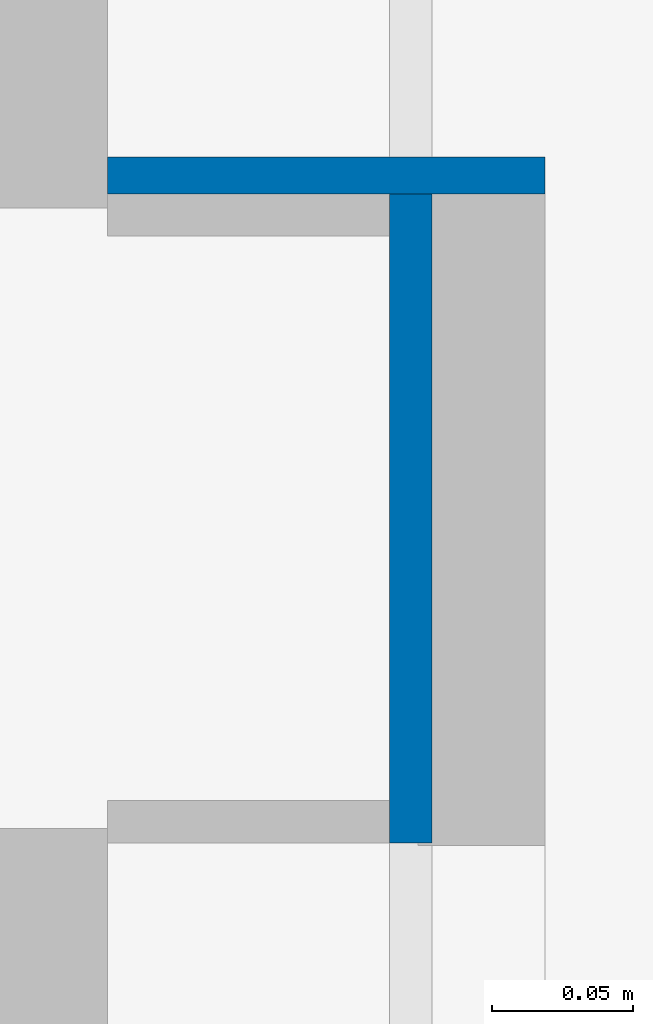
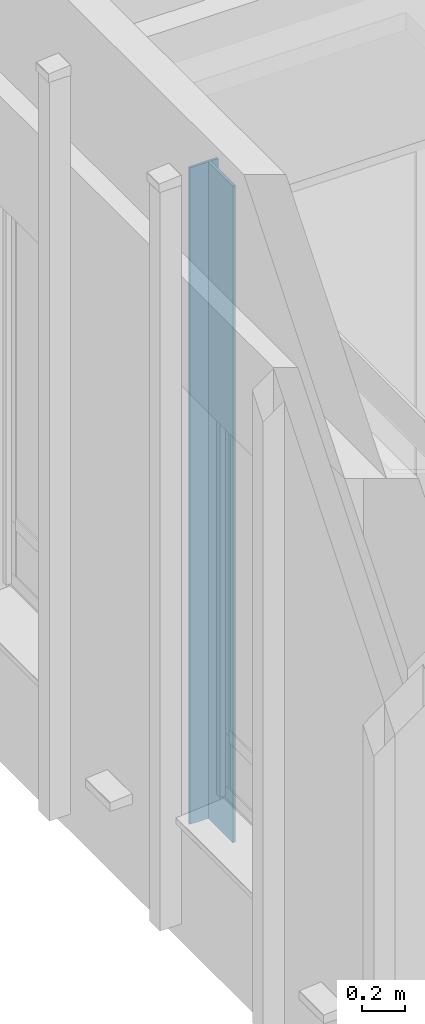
# One storey, part 48 of 118: 2 walls, 11 openings.
"""IFC2X3 building model written with IfcOpenShell, lengths in millimetres."""

from ifc_helpers import new_model, entity, si_unit, converted_unit, derived_unit, direction, frame, frame_2d, origin, place, context, subcontext, project, spatial, rectangle, extrude, faceted_brep, material, layer, layer_set, layer_usage, type_object, element, save


model = new_model("IFC2X3")

# Units and contexts
model_context = context("Model", 3, precision=0.01, world=origin(), true_north=direction((6.123031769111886e-17, 1.0)))
plan_context = context("Plan", 3, precision=0.01, world=origin(), true_north=direction((6.123031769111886e-17, 1.0)))
body_context = subcontext(model_context, "Body", "Model", "MODEL_VIEW")
ifc_project = project(units=[si_unit("LENGTHUNIT", "METRE", prefix="MILLI"), si_unit("AREAUNIT", "SQUARE_METRE"), si_unit("VOLUMEUNIT", "CUBIC_METRE"), converted_unit("PLANEANGLEUNIT", "DEGREE", entity("IfcRatioMeasure", 0.017453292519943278), si_unit("PLANEANGLEUNIT", "RADIAN"), dimensions=[0, 0, 0, 0, 0, 0, 0]), si_unit("MASSUNIT", "GRAM", prefix="KILO"), derived_unit("MASSDENSITYUNIT", [(si_unit("MASSUNIT", "GRAM", prefix="KILO"), 1), (si_unit("LENGTHUNIT", "METRE"), -3)]), derived_unit("IONCONCENTRATIONUNIT", [(si_unit("MASSUNIT", "GRAM", prefix="KILO"), 1), (si_unit("LENGTHUNIT", "METRE"), -3)]), derived_unit("MOMENTOFINERTIAUNIT", [(si_unit("LENGTHUNIT", "METRE"), 4)]), si_unit("TIMEUNIT", "SECOND"), si_unit("FREQUENCYUNIT", "HERTZ"), si_unit("THERMODYNAMICTEMPERATUREUNIT", "DEGREE_CELSIUS"), derived_unit("THERMALTRANSMITTANCEUNIT", [(si_unit("MASSUNIT", "GRAM", prefix="KILO"), 1), (si_unit("THERMODYNAMICTEMPERATUREUNIT", "KELVIN"), -1), (si_unit("TIMEUNIT", "SECOND"), -3)]), derived_unit("THERMALCONDUCTANCEUNIT", [(si_unit("MASSUNIT", "GRAM", prefix="KILO"), 1), (si_unit("THERMODYNAMICTEMPERATUREUNIT", "KELVIN"), -1), (si_unit("TIMEUNIT", "SECOND"), -3), (si_unit("LENGTHUNIT", "METRE"), 1)]), derived_unit("VOLUMETRICFLOWRATEUNIT", [(si_unit("LENGTHUNIT", "METRE"), 3), (si_unit("TIMEUNIT", "SECOND"), -1)]), derived_unit("MASSFLOWRATEUNIT", [(si_unit("MASSUNIT", "GRAM", prefix="KILO"), 1), (si_unit("TIMEUNIT", "SECOND"), -1)]), derived_unit("ROTATIONALFREQUENCYUNIT", [(si_unit("TIMEUNIT", "SECOND"), -1)]), si_unit("ELECTRICCURRENTUNIT", "AMPERE"), si_unit("ELECTRICVOLTAGEUNIT", "VOLT"), si_unit("POWERUNIT", "WATT"), si_unit("FORCEUNIT", "NEWTON", prefix="KILO"), si_unit("ILLUMINANCEUNIT", "LUX"), si_unit("LUMINOUSFLUXUNIT", "LUMEN"), si_unit("LUMINOUSINTENSITYUNIT", "CANDELA"), derived_unit("USERDEFINED", [(si_unit("MASSUNIT", "GRAM", prefix="KILO"), -1), (si_unit("LENGTHUNIT", "METRE"), -2), (si_unit("TIMEUNIT", "SECOND"), 3), (si_unit("LUMINOUSFLUXUNIT", "LUMEN"), 1)]), derived_unit("USERDEFINED", [(si_unit("MASSUNIT", "GRAM", prefix="KILO"), 1), (si_unit("TIMEUNIT", "SECOND"), -3), (si_unit("LENGTHUNIT", "METRE"), 3), (si_unit("ELECTRICCURRENTUNIT", "AMPERE"), -2)]), derived_unit("SOUNDPOWERUNIT", [(si_unit("MASSUNIT", "GRAM", prefix="KILO"), 1), (si_unit("TIMEUNIT", "SECOND"), -3), (si_unit("LENGTHUNIT", "METRE"), 2)]), derived_unit("SOUNDPRESSUREUNIT", [(si_unit("MASSUNIT", "GRAM", prefix="KILO"), 1), (si_unit("LENGTHUNIT", "METRE"), -1), (si_unit("TIMEUNIT", "SECOND"), -2)]), derived_unit("LINEARVELOCITYUNIT", [(si_unit("LENGTHUNIT", "METRE"), 1), (si_unit("TIMEUNIT", "SECOND"), -1)]), si_unit("PRESSUREUNIT", "PASCAL"), derived_unit("USERDEFINED", [(si_unit("MASSUNIT", "GRAM", prefix="KILO"), 1), (si_unit("LENGTHUNIT", "METRE"), -2), (si_unit("TIMEUNIT", "SECOND"), -2)]), derived_unit("LINEARFORCEUNIT", [(si_unit("MASSUNIT", "GRAM", prefix="KILO"), 1), (si_unit("TIMEUNIT", "SECOND"), -2)]), derived_unit("PLANARFORCEUNIT", [(si_unit("MASSUNIT", "GRAM", prefix="KILO"), 1), (si_unit("LENGTHUNIT", "METRE"), -1), (si_unit("TIMEUNIT", "SECOND"), -2)]), derived_unit("SPECIFICHEATCAPACITYUNIT", [(si_unit("THERMODYNAMICTEMPERATUREUNIT", "KELVIN"), -1), (si_unit("LENGTHUNIT", "METRE"), 2), (si_unit("TIMEUNIT", "SECOND"), -2)]), derived_unit("HEATINGVALUEUNIT", [(si_unit("LENGTHUNIT", "METRE"), 2), (si_unit("TIMEUNIT", "SECOND"), -2)]), derived_unit("VAPORPERMEABILITYUNIT", [(si_unit("LENGTHUNIT", "METRE"), -1), (si_unit("TIMEUNIT", "SECOND"), 1)]), derived_unit("DYNAMICVISCOSITYUNIT", [(si_unit("MASSUNIT", "GRAM", prefix="KILO"), 1), (si_unit("TIMEUNIT", "SECOND"), -1), (si_unit("LENGTHUNIT", "METRE"), -1)]), derived_unit("THERMALEXPANSIONCOEFFICIENTUNIT", [(si_unit("THERMODYNAMICTEMPERATUREUNIT", "KELVIN"), -1)]), derived_unit("MODULUSOFELASTICITYUNIT", [(si_unit("MASSUNIT", "GRAM", prefix="KILO"), 1), (si_unit("LENGTHUNIT", "METRE"), -1), (si_unit("TIMEUNIT", "SECOND"), -2)]), derived_unit("ISOTHERMALMOISTURECAPACITYUNIT", [(si_unit("LENGTHUNIT", "METRE"), 3), (si_unit("MASSUNIT", "GRAM", prefix="KILO"), -1)]), derived_unit("MOISTUREDIFFUSIVITYUNIT", [(si_unit("TIMEUNIT", "SECOND"), -1), (si_unit("LENGTHUNIT", "METRE"), 2)])], contexts=[model_context, plan_context])

# Site, building, storey
site_placement = place(None, origin())
site = spatial("IfcSite", under=ifc_project, at=site_placement, Name="Locatie", CompositionType="ELEMENT")
building_placement = place(site_placement, origin())
building = spatial("IfcBuilding", under=site, at=building_placement, Name="Bouwwerk", CompositionType="ELEMENT")
storey_placement = place(building_placement, frame((0.0, 0.0, 7800.0)))
storey = spatial("IfcBuildingStorey", under=building, at=storey_placement, Name="02 tweede verdieping", CompositionType="ELEMENT", Elevation=7800.000000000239)

# Wall
ifc_material_1 = material(Name="f7_gipsvezel")
ifc_layer_1 = layer(ifc_material_1, 13.000000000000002)
ifc_layer_set_1 = layer_set([ifc_layer_1], Name="Basic Wall:NLRS_41_WA_gips 13_gen_ISR")
ifc_layer_usage_1 = layer_usage(ifc_layer_set_1, "AXIS2", "POSITIVE", -6.500000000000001)
wall_type_1 = type_object("IfcWallType", Name="Basic Wall:NLRS_41_WA_gips 13_gen_ISR", PredefinedType="STANDARD", material=ifc_layer_set_1)
wall_1_placement = place(storey_placement, frame((10155.0, 23321.499999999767, 0.0), z_axis=(0.0, 0.0, 1.0), x_axis=(-1.0, 0.0, 0.0)))
element("IfcWallStandardCase", 1, at=wall_1_placement, inside=storey, type_object=wall_type_1, material=ifc_layer_usage_1, Name="Basic Wall:NLRS_41_WA_gips 13_gen_ISR", ObjectType="Basic Wall:NLRS_41_WA_gips 13_gen_ISR", context=body_context, shape_type="SweptSolid", body=[
    extrude(rectangle(XDim=155.00000005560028, YDim=12.999999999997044, at=frame_2d((77.50000002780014, -6.754596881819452e-13), x_axis=(-1.0, 0.0))), origin(), (0.0, 0.0, 1.0), 3750.000000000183),
])

# Wall, openings
ifc_material_2 = material(Name="ISR_brandwerende beplating")
ifc_layer_2 = layer(ifc_material_2, 15.0)
ifc_layer_set_2 = layer_set([ifc_layer_2], Name="Basic Wall:NLRS_41_WA_brandwerende beplating 15_gen_ISR")
ifc_layer_usage_2 = layer_usage(ifc_layer_set_2, "AXIS2", "NEGATIVE", 7.5)
wall_type_2 = type_object("IfcWallType", Name="Basic Wall:NLRS_41_WA_brandwerende beplating 15_gen_ISR", PredefinedType="STANDARD", material=ifc_layer_set_2)
wall_2_placement = place(storey_placement, frame((10107.500000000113, 23315.0, 0.0), z_axis=(0.0, 0.0, 1.0), x_axis=(0.0, -1.0, 0.0)))
wall_2 = element("IfcWallStandardCase", 2, at=wall_2_placement, inside=storey, type_object=wall_type_2, material=ifc_layer_usage_2, Name="Basic Wall:NLRS_41_WA_brandwerende beplating 15_gen_ISR", ObjectType="Basic Wall:NLRS_41_WA_brandwerende beplating 15_gen_ISR", context=body_context, shape_type="SweptSolid", body=[
    extrude(rectangle(XDim=229.99999999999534, YDim=15.00000000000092, at=frame_2d((114.99999999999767, -7.931433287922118e-13), x_axis=(-1.0, 0.0))), origin(), (0.0, 0.0, 1.0), 3750.000000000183),
])
opening_1_placement = place(wall_2_placement, frame((11671.0, -547.4999999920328, 603.0)))
element("IfcOpeningElement", 3, at=opening_1_placement, cuts=wall_2, Name="Basic Wall:NLRS_41_WA_brandwerende beplating 15_gen_ISR", ObjectType="Opening", context=body_context, shape_type="Brep", body=[
    faceted_brep([(-1088.0, 100.0, 2472.0), (-1009.0, 100.0, 2472.0), (-1009.0, 100.0, 42.0), (-103.0, 100.0, 42.0), (-103.0, 100.0, 2472.0), (-24.0, 100.0, 2472.0), (-24.0, 100.0, 0.0), (-1088.0, 100.0, 0.0), (-24.0, 0.0, 2472.0), (-1088.0, 0.0, 2472.0), (-1088.0, 0.0, 0.0), (-24.0, 0.0, 0.0), (0.0, 415.0, 2594.0), (0.0, 415.0, 11.0), (-1112.0, 415.0, 11.0), (-1112.0, 415.0, 2594.0), (-148.0, 415.0, 2443.0), (-964.0, 415.0, 2443.0), (-964.0, 415.0, 87.0), (-148.0, 415.0, 87.0), (0.0, 140.0, 2594.0), (-1112.0, 140.0, 2594.0), (-1112.0, 140.0, 11.0), (0.0, 140.0, 11.0), (-103.0, 140.0, 42.0), (-1009.0, 140.0, 42.0), (-1009.0, 140.0, 2508.0), (-103.0, 140.0, 2508.0), (-1009.0, 100.0, 2508.0), (-103.0, 100.0, 2508.0), (-148.0, 615.0, 2443.0), (-148.0, 615.0, 87.0), (-964.0, 615.0, 87.0), (-964.0, 615.0, 2443.0)], [[[0, 1, 2, 3, 4, 5, 6, 7]], [[8, 9, 10, 11]], [[5, 8, 11, 6]], [[6, 11, 10, 7]], [[7, 10, 9, 0]], [[8, 5, 4, 1, 0, 9]], [[12, 13, 14, 15], [16, 17, 18, 19]], [[20, 21, 22, 23], [24, 25, 26, 27]], [[12, 20, 23, 13]], [[13, 23, 22, 14]], [[14, 22, 21, 15]], [[15, 21, 20, 12]], [[28, 1, 4, 29]], [[24, 27, 29, 4, 3]], [[3, 2, 25, 24]], [[2, 1, 28, 26, 25]], [[29, 27, 26, 28]], [[30, 31, 32, 33]], [[30, 16, 19, 31]], [[31, 19, 18, 32]], [[32, 18, 17, 33]], [[33, 17, 16, 30]]]),
])
opening_2_placement = place(wall_2_placement, frame((9671.0, -547.4999999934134, 603.0)))
element("IfcOpeningElement", 4, at=opening_2_placement, cuts=wall_2, Name="Basic Wall:NLRS_41_WA_brandwerende beplating 15_gen_ISR", ObjectType="Opening", context=body_context, shape_type="Brep", body=[
    faceted_brep([(-1088.0, 100.0, 2472.0), (-1009.0, 100.0, 2472.0), (-1009.0, 100.0, 42.0), (-103.0, 100.0, 42.0), (-103.0, 100.0, 2472.0), (-24.0, 100.0, 2472.0), (-24.0, 100.0, 0.0), (-1088.0, 100.0, 0.0), (-24.0, 0.0, 2472.0), (-1088.0, 0.0, 2472.0), (-1088.0, 0.0, 0.0), (-24.0, 0.0, 0.0), (0.0, 415.0, 2594.0), (0.0, 415.0, 11.0), (-1112.0, 415.0, 11.0), (-1112.0, 415.0, 2594.0), (-148.0, 415.0, 2443.0), (-964.0, 415.0, 2443.0), (-964.0, 415.0, 87.0), (-148.0, 415.0, 87.0), (0.0, 140.0, 2594.0), (-1112.0, 140.0, 2594.0), (-1112.0, 140.0, 11.0), (0.0, 140.0, 11.0), (-103.0, 140.0, 42.0), (-1009.0, 140.0, 42.0), (-1009.0, 140.0, 2508.0), (-103.0, 140.0, 2508.0), (-1009.0, 100.0, 2508.0), (-103.0, 100.0, 2508.0), (-148.0, 615.0, 2443.0), (-148.0, 615.0, 87.0), (-964.0, 615.0, 87.0), (-964.0, 615.0, 2443.0)], [[[0, 1, 2, 3, 4, 5, 6, 7]], [[8, 9, 10, 11]], [[5, 8, 11, 6]], [[6, 11, 10, 7]], [[7, 10, 9, 0]], [[8, 5, 4, 1, 0, 9]], [[12, 13, 14, 15], [16, 17, 18, 19]], [[20, 21, 22, 23], [24, 25, 26, 27]], [[12, 20, 23, 13]], [[13, 23, 22, 14]], [[14, 22, 21, 15]], [[15, 21, 20, 12]], [[28, 1, 4, 29]], [[24, 27, 29, 4, 3]], [[3, 2, 25, 24]], [[2, 1, 28, 26, 25]], [[29, 27, 26, 28]], [[30, 31, 32, 33]], [[30, 16, 19, 31]], [[31, 19, 18, 32]], [[32, 18, 17, 33]], [[33, 17, 16, 30]]]),
])
opening_3_placement = place(wall_2_placement, frame((7671.0, -547.4999999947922, 603.0)))
element("IfcOpeningElement", 5, at=opening_3_placement, cuts=wall_2, Name="Basic Wall:NLRS_41_WA_brandwerende beplating 15_gen_ISR", ObjectType="Opening", context=body_context, shape_type="Brep", body=[
    faceted_brep([(-1088.0, 100.0, 2472.0), (-1009.0, 100.0, 2472.0), (-1009.0, 100.0, 42.0), (-103.0, 100.0, 42.0), (-103.0, 100.0, 2472.0), (-24.0, 100.0, 2472.0), (-24.0, 100.0, 0.0), (-1088.0, 100.0, 0.0), (-24.0, 0.0, 2472.0), (-1088.0, 0.0, 2472.0), (-1088.0, 0.0, 0.0), (-24.0, 0.0, 0.0), (0.0, 415.0, 2594.0), (0.0, 415.0, 11.0), (-1112.0, 415.0, 11.0), (-1112.0, 415.0, 2594.0), (-148.0, 415.0, 2443.0), (-964.0, 415.0, 2443.0), (-964.0, 415.0, 87.0), (-148.0, 415.0, 87.0), (0.0, 140.0, 2594.0), (-1112.0, 140.0, 2594.0), (-1112.0, 140.0, 11.0), (0.0, 140.0, 11.0), (-103.0, 140.0, 42.0), (-1009.0, 140.0, 42.0), (-1009.0, 140.0, 2508.0), (-103.0, 140.0, 2508.0), (-1009.0, 100.0, 2508.0), (-103.0, 100.0, 2508.0), (-148.0, 615.0, 2443.0), (-148.0, 615.0, 87.0), (-964.0, 615.0, 87.0), (-964.0, 615.0, 2443.0)], [[[0, 1, 2, 3, 4, 5, 6, 7]], [[8, 9, 10, 11]], [[5, 8, 11, 6]], [[6, 11, 10, 7]], [[7, 10, 9, 0]], [[8, 5, 4, 1, 0, 9]], [[12, 13, 14, 15], [16, 17, 18, 19]], [[20, 21, 22, 23], [24, 25, 26, 27]], [[12, 20, 23, 13]], [[13, 23, 22, 14]], [[14, 22, 21, 15]], [[15, 21, 20, 12]], [[28, 1, 4, 29]], [[24, 27, 29, 4, 3]], [[3, 2, 25, 24]], [[2, 1, 28, 26, 25]], [[29, 27, 26, 28]], [[30, 31, 32, 33]], [[30, 16, 19, 31]], [[31, 19, 18, 32]], [[32, 18, 17, 33]], [[33, 17, 16, 30]]]),
])
opening_4_placement = place(wall_2_placement, frame((5671.0, -547.4999999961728, 603.0)))
element("IfcOpeningElement", 6, at=opening_4_placement, cuts=wall_2, Name="Basic Wall:NLRS_41_WA_brandwerende beplating 15_gen_ISR", ObjectType="Opening", context=body_context, shape_type="Brep", body=[
    faceted_brep([(-1088.0, 100.0, 2472.0), (-1009.0, 100.0, 2472.0), (-1009.0, 100.0, 42.0), (-103.0, 100.0, 42.0), (-103.0, 100.0, 2472.0), (-24.0, 100.0, 2472.0), (-24.0, 100.0, 0.0), (-1088.0, 100.0, 0.0), (-24.0, 0.0, 2472.0), (-1088.0, 0.0, 2472.0), (-1088.0, 0.0, 0.0), (-24.0, 0.0, 0.0), (0.0, 415.0, 2594.0), (0.0, 415.0, 11.0), (-1112.0, 415.0, 11.0), (-1112.0, 415.0, 2594.0), (-148.0, 415.0, 2443.0), (-964.0, 415.0, 2443.0), (-964.0, 415.0, 87.0), (-148.0, 415.0, 87.0), (0.0, 140.0, 2594.0), (-1112.0, 140.0, 2594.0), (-1112.0, 140.0, 11.0), (0.0, 140.0, 11.0), (-103.0, 140.0, 42.0), (-1009.0, 140.0, 42.0), (-1009.0, 140.0, 2508.0), (-103.0, 140.0, 2508.0), (-1009.0, 100.0, 2508.0), (-103.0, 100.0, 2508.0), (-148.0, 615.0, 2443.0), (-148.0, 615.0, 87.0), (-964.0, 615.0, 87.0), (-964.0, 615.0, 2443.0)], [[[0, 1, 2, 3, 4, 5, 6, 7]], [[8, 9, 10, 11]], [[5, 8, 11, 6]], [[6, 11, 10, 7]], [[7, 10, 9, 0]], [[8, 5, 4, 1, 0, 9]], [[12, 13, 14, 15], [16, 17, 18, 19]], [[20, 21, 22, 23], [24, 25, 26, 27]], [[12, 20, 23, 13]], [[13, 23, 22, 14]], [[14, 22, 21, 15]], [[15, 21, 20, 12]], [[28, 1, 4, 29]], [[24, 27, 29, 4, 3]], [[3, 2, 25, 24]], [[2, 1, 28, 26, 25]], [[29, 27, 26, 28]], [[30, 31, 32, 33]], [[30, 16, 19, 31]], [[31, 19, 18, 32]], [[32, 18, 17, 33]], [[33, 17, 16, 30]]]),
])
opening_5_placement = place(wall_2_placement, frame((3671.0, -547.4999999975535, 603.0)))
element("IfcOpeningElement", 7, at=opening_5_placement, cuts=wall_2, Name="Basic Wall:NLRS_41_WA_brandwerende beplating 15_gen_ISR", ObjectType="Opening", context=body_context, shape_type="Brep", body=[
    faceted_brep([(-24.0, 100.0, 0.0), (-24.0, 0.0, 0.0), (-1088.0, 0.0, 0.0), (-1088.0, 100.0, 0.0), (0.0, 415.0, 11.0), (0.0, 140.0, 11.0), (-1112.0, 140.0, 11.0), (-1112.0, 415.0, 11.0), (-103.0, 100.0, 42.0), (-1009.0, 100.0, 42.0), (-1009.0, 140.0, 42.0), (-103.0, 140.0, 42.0), (-1088.0, 100.0, 2472.0), (-1009.0, 100.0, 2472.0), (-103.0, 100.0, 2472.0), (-24.0, 100.0, 2472.0), (-24.0, 0.0, 2472.0), (-1088.0, 0.0, 2472.0), (0.0, 415.0, 2594.0), (-1112.0, 415.0, 2594.0), (-148.0, 415.0, 2443.0), (-964.0, 415.0, 2443.0), (-964.0, 415.0, 87.0), (-148.0, 415.0, 87.0), (0.0, 140.0, 2594.0), (-1112.0, 140.0, 2594.0), (-1009.0, 140.0, 2508.0), (-103.0, 140.0, 2508.0), (-1009.0, 100.0, 2508.0), (-103.0, 100.0, 2508.0), (-148.0, 615.0, 2443.0), (-148.0, 615.0, 87.0), (-964.0, 615.0, 87.0), (-964.0, 615.0, 2443.0)], [[[0, 1, 2, 3]], [[4, 5, 6, 7]], [[8, 9, 10, 11]], [[12, 13, 9, 8, 14, 15, 0, 3]], [[16, 17, 2, 1]], [[15, 16, 1, 0]], [[3, 2, 17, 12]], [[16, 15, 14, 13, 12, 17]], [[18, 4, 7, 19], [20, 21, 22, 23]], [[24, 25, 6, 5], [11, 10, 26, 27]], [[18, 24, 5, 4]], [[7, 6, 25, 19]], [[19, 25, 24, 18]], [[28, 13, 14, 29]], [[11, 27, 29, 14, 8]], [[9, 13, 28, 26, 10]], [[29, 27, 26, 28]], [[30, 31, 32, 33]], [[30, 20, 23, 31]], [[31, 23, 22, 32]], [[32, 22, 21, 33]], [[33, 21, 20, 30]]]),
])
opening_6_placement = place(wall_2_placement, frame((1671.0, -547.4999999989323, 603.0)))
element("IfcOpeningElement", 8, at=opening_6_placement, cuts=wall_2, Name="Basic Wall:NLRS_41_WA_brandwerende beplating 15_gen_ISR", ObjectType="Opening", context=body_context, shape_type="Brep", body=[
    faceted_brep([(-24.0, 100.0, 0.0), (-24.0, 0.0, 0.0), (-1088.0, 0.0, 0.0), (-1088.0, 100.0, 0.0), (0.0, 415.0, 11.0), (0.0, 140.0, 11.0), (-1112.0, 140.0, 11.0), (-1112.0, 415.0, 11.0), (-103.0, 100.0, 42.0), (-1009.0, 100.0, 42.0), (-1009.0, 140.0, 42.0), (-103.0, 140.0, 42.0), (-1088.0, 100.0, 2472.0), (-1009.0, 100.0, 2472.0), (-103.0, 100.0, 2472.0), (-24.0, 100.0, 2472.0), (-24.0, 0.0, 2472.0), (-1088.0, 0.0, 2472.0), (0.0, 415.0, 2594.0), (-1112.0, 415.0, 2594.0), (-148.0, 415.0, 2443.0), (-964.0, 415.0, 2443.0), (-964.0, 415.0, 87.0), (-148.0, 415.0, 87.0), (0.0, 140.0, 2594.0), (-1112.0, 140.0, 2594.0), (-1009.0, 140.0, 2508.0), (-103.0, 140.0, 2508.0), (-1009.0, 100.0, 2508.0), (-103.0, 100.0, 2508.0), (-148.0, 615.0, 2443.0), (-148.0, 615.0, 87.0), (-964.0, 615.0, 87.0), (-964.0, 615.0, 2443.0)], [[[0, 1, 2, 3]], [[4, 5, 6, 7]], [[8, 9, 10, 11]], [[12, 13, 9, 8, 14, 15, 0, 3]], [[16, 17, 2, 1]], [[15, 16, 1, 0]], [[3, 2, 17, 12]], [[16, 15, 14, 13, 12, 17]], [[18, 4, 7, 19], [20, 21, 22, 23]], [[24, 25, 6, 5], [11, 10, 26, 27]], [[18, 24, 5, 4]], [[7, 6, 25, 19]], [[19, 25, 24, 18]], [[28, 13, 14, 29]], [[11, 27, 29, 14, 8]], [[9, 13, 28, 26, 10]], [[29, 27, 26, 28]], [[30, 31, 32, 33]], [[30, 20, 23, 31]], [[31, 23, 22, 32]], [[32, 22, 21, 33]], [[33, 21, 20, 30]]]),
])
opening_7_placement = place(wall_2_placement, frame((-329.0, -547.5000000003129, 603.0)))
element("IfcOpeningElement", 9, at=opening_7_placement, cuts=wall_2, Name="Basic Wall:NLRS_41_WA_brandwerende beplating 15_gen_ISR", ObjectType="Opening", context=body_context, shape_type="Brep", body=[
    faceted_brep([(-1088.0, 100.0, 2472.0), (-1009.0, 100.0, 2472.0), (-1009.0, 100.0, 42.0), (-103.0, 100.0, 42.0), (-103.0, 100.0, 2472.0), (-24.0, 100.0, 2472.0), (-24.0, 100.0, 0.0), (-1088.0, 100.0, 0.0), (-24.0, 0.0, 2472.0), (-1088.0, 0.0, 2472.0), (-1088.0, 0.0, 0.0), (-24.0, 0.0, 0.0), (0.0, 415.0, 2594.0), (0.0, 415.0, 11.0), (-1112.0, 415.0, 11.0), (-1112.0, 415.0, 2594.0), (-148.0, 415.0, 2443.0), (-964.0, 415.0, 2443.0), (-964.0, 415.0, 87.0), (-148.0, 415.0, 87.0), (0.0, 140.0, 2594.0), (-1112.0, 140.0, 2594.0), (-1112.0, 140.0, 11.0), (0.0, 140.0, 11.0), (-103.0, 140.0, 42.0), (-1009.0, 140.0, 42.0), (-1009.0, 140.0, 2508.0), (-103.0, 140.0, 2508.0), (-1009.0, 100.0, 2508.0), (-103.0, 100.0, 2508.0), (-148.0, 615.0, 2443.0), (-148.0, 615.0, 87.0), (-964.0, 615.0, 87.0), (-964.0, 615.0, 2443.0)], [[[0, 1, 2, 3, 4, 5, 6, 7]], [[8, 9, 10, 11]], [[5, 8, 11, 6]], [[6, 11, 10, 7]], [[7, 10, 9, 0]], [[8, 5, 4, 1, 0, 9]], [[12, 13, 14, 15], [16, 17, 18, 19]], [[20, 21, 22, 23], [24, 25, 26, 27]], [[12, 20, 23, 13]], [[13, 23, 22, 14]], [[14, 22, 21, 15]], [[15, 21, 20, 12]], [[28, 1, 4, 29]], [[24, 27, 29, 4, 3]], [[3, 2, 25, 24]], [[2, 1, 28, 26, 25]], [[29, 27, 26, 28]], [[30, 31, 32, 33]], [[30, 16, 19, 31]], [[31, 19, 18, 32]], [[32, 18, 17, 33]], [[33, 17, 16, 30]]]),
])
opening_8_placement = place(wall_2_placement, frame((-2329.0, -547.5000000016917, 603.0)))
element("IfcOpeningElement", 10, at=opening_8_placement, cuts=wall_2, Name="Basic Wall:NLRS_41_WA_brandwerende beplating 15_gen_ISR", ObjectType="Opening", context=body_context, shape_type="Brep", body=[
    faceted_brep([(-1088.0, 100.0, 2472.0), (-1009.0, 100.0, 2472.0), (-1009.0, 100.0, 42.0), (-103.0, 100.0, 42.0), (-103.0, 100.0, 2472.0), (-24.0, 100.0, 2472.0), (-24.0, 100.0, 0.0), (-1088.0, 100.0, 0.0), (-24.0, 0.0, 2472.0), (-1088.0, 0.0, 2472.0), (-1088.0, 0.0, 0.0), (-24.0, 0.0, 0.0), (0.0, 415.0, 2594.0), (0.0, 415.0, 11.0), (-1112.0, 415.0, 11.0), (-1112.0, 415.0, 2594.0), (-148.0, 415.0, 2443.0), (-964.0, 415.0, 2443.0), (-964.0, 415.0, 87.0), (-148.0, 415.0, 87.0), (0.0, 140.0, 2594.0), (-1112.0, 140.0, 2594.0), (-1112.0, 140.0, 11.0), (0.0, 140.0, 11.0), (-103.0, 140.0, 42.0), (-1009.0, 140.0, 42.0), (-1009.0, 140.0, 2508.0), (-103.0, 140.0, 2508.0), (-1009.0, 100.0, 2508.0), (-103.0, 100.0, 2508.0), (-148.0, 615.0, 2443.0), (-148.0, 615.0, 87.0), (-964.0, 615.0, 87.0), (-964.0, 615.0, 2443.0)], [[[0, 1, 2, 3, 4, 5, 6, 7]], [[8, 9, 10, 11]], [[5, 8, 11, 6]], [[6, 11, 10, 7]], [[7, 10, 9, 0]], [[8, 5, 4, 1, 0, 9]], [[12, 13, 14, 15], [16, 17, 18, 19]], [[20, 21, 22, 23], [24, 25, 26, 27]], [[12, 20, 23, 13]], [[13, 23, 22, 14]], [[14, 22, 21, 15]], [[15, 21, 20, 12]], [[28, 1, 4, 29]], [[24, 27, 29, 4, 3]], [[3, 2, 25, 24]], [[2, 1, 28, 26, 25]], [[29, 27, 26, 28]], [[30, 31, 32, 33]], [[30, 16, 19, 31]], [[31, 19, 18, 32]], [[32, 18, 17, 33]], [[33, 17, 16, 30]]]),
])
opening_9_placement = place(wall_2_placement, frame((-4329.0, -547.5000000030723, 603.0)))
element("IfcOpeningElement", 11, at=opening_9_placement, cuts=wall_2, Name="Basic Wall:NLRS_41_WA_brandwerende beplating 15_gen_ISR", ObjectType="Opening", context=body_context, shape_type="Brep", body=[
    faceted_brep([(-1088.0, 100.0, 2472.0), (-1009.0, 100.0, 2472.0), (-1009.0, 100.0, 42.0), (-103.0, 100.0, 42.0), (-103.0, 100.0, 2472.0), (-24.0, 100.0, 2472.0), (-24.0, 100.0, 0.0), (-1088.0, 100.0, 0.0), (-24.0, 0.0, 2472.0), (-1088.0, 0.0, 2472.0), (-1088.0, 0.0, 0.0), (-24.0, 0.0, 0.0), (0.0, 415.0, 2594.0), (0.0, 415.0, 11.0), (-1112.0, 415.0, 11.0), (-1112.0, 415.0, 2594.0), (-148.0, 415.0, 2443.0), (-964.0, 415.0, 2443.0), (-964.0, 415.0, 87.0), (-148.0, 415.0, 87.0), (0.0, 140.0, 2594.0), (-1112.0, 140.0, 2594.0), (-1112.0, 140.0, 11.0), (0.0, 140.0, 11.0), (-103.0, 140.0, 42.0), (-1009.0, 140.0, 42.0), (-1009.0, 140.0, 2508.0), (-103.0, 140.0, 2508.0), (-1009.0, 100.0, 2508.0), (-103.0, 100.0, 2508.0), (-148.0, 615.0, 2443.0), (-148.0, 615.0, 87.0), (-964.0, 615.0, 87.0), (-964.0, 615.0, 2443.0)], [[[0, 1, 2, 3, 4, 5, 6, 7]], [[8, 9, 10, 11]], [[5, 8, 11, 6]], [[6, 11, 10, 7]], [[7, 10, 9, 0]], [[8, 5, 4, 1, 0, 9]], [[12, 13, 14, 15], [16, 17, 18, 19]], [[20, 21, 22, 23], [24, 25, 26, 27]], [[12, 20, 23, 13]], [[13, 23, 22, 14]], [[14, 22, 21, 15]], [[15, 21, 20, 12]], [[28, 1, 4, 29]], [[24, 27, 29, 4, 3]], [[3, 2, 25, 24]], [[2, 1, 28, 26, 25]], [[29, 27, 26, 28]], [[30, 31, 32, 33]], [[30, 16, 19, 31]], [[31, 19, 18, 32]], [[32, 18, 17, 33]], [[33, 17, 16, 30]]]),
])
opening_10_placement = place(wall_2_placement, frame((-6329.0, -547.5000000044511, 603.0)))
element("IfcOpeningElement", 12, at=opening_10_placement, cuts=wall_2, Name="Basic Wall:NLRS_41_WA_brandwerende beplating 15_gen_ISR", ObjectType="Opening", context=body_context, shape_type="Brep", body=[
    faceted_brep([(-1088.0, 100.0, 2472.0), (-1009.0, 100.0, 2472.0), (-1009.0, 100.0, 42.0), (-103.0, 100.0, 42.0), (-103.0, 100.0, 2472.0), (-24.0, 100.0, 2472.0), (-24.0, 100.0, 0.0), (-1088.0, 100.0, 0.0), (-24.0, 0.0, 2472.0), (-1088.0, 0.0, 2472.0), (-1088.0, 0.0, 0.0), (-24.0, 0.0, 0.0), (0.0, 415.0, 2594.0), (0.0, 415.0, 11.0), (-1112.0, 415.0, 11.0), (-1112.0, 415.0, 2594.0), (-148.0, 415.0, 2443.0), (-964.0, 415.0, 2443.0), (-964.0, 415.0, 87.0), (-148.0, 415.0, 87.0), (0.0, 140.0, 2594.0), (-1112.0, 140.0, 2594.0), (-1112.0, 140.0, 11.0), (0.0, 140.0, 11.0), (-103.0, 140.0, 42.0), (-1009.0, 140.0, 42.0), (-1009.0, 140.0, 2508.0), (-103.0, 140.0, 2508.0), (-1009.0, 100.0, 2508.0), (-103.0, 100.0, 2508.0), (-148.0, 615.0, 2443.0), (-148.0, 615.0, 87.0), (-964.0, 615.0, 87.0), (-964.0, 615.0, 2443.0)], [[[0, 1, 2, 3, 4, 5, 6, 7]], [[8, 9, 10, 11]], [[5, 8, 11, 6]], [[6, 11, 10, 7]], [[7, 10, 9, 0]], [[8, 5, 4, 1, 0, 9]], [[12, 13, 14, 15], [16, 17, 18, 19]], [[20, 21, 22, 23], [24, 25, 26, 27]], [[12, 20, 23, 13]], [[13, 23, 22, 14]], [[14, 22, 21, 15]], [[15, 21, 20, 12]], [[28, 1, 4, 29]], [[24, 27, 29, 4, 3]], [[3, 2, 25, 24]], [[2, 1, 28, 26, 25]], [[29, 27, 26, 28]], [[30, 31, 32, 33]], [[30, 16, 19, 31]], [[31, 19, 18, 32]], [[32, 18, 17, 33]], [[33, 17, 16, 30]]]),
])
opening_11_placement = place(wall_2_placement, frame((-8329.0, -547.5000000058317, 603.0)))
element("IfcOpeningElement", 13, at=opening_11_placement, cuts=wall_2, Name="Basic Wall:NLRS_41_WA_brandwerende beplating 15_gen_ISR", ObjectType="Opening", context=body_context, shape_type="Brep", body=[
    faceted_brep([(-1088.0, 100.0, 2472.0), (-1009.0, 100.0, 2472.0), (-1009.0, 100.0, 42.0), (-103.0, 100.0, 42.0), (-103.0, 100.0, 2472.0), (-24.0, 100.0, 2472.0), (-24.0, 100.0, 0.0), (-1088.0, 100.0, 0.0), (-24.0, 0.0, 2472.0), (-1088.0, 0.0, 2472.0), (-1088.0, 0.0, 0.0), (-24.0, 0.0, 0.0), (0.0, 415.0, 2594.0), (0.0, 415.0, 11.0), (-1112.0, 415.0, 11.0), (-1112.0, 415.0, 2594.0), (-148.0, 415.0, 2443.0), (-964.0, 415.0, 2443.0), (-964.0, 415.0, 87.0), (-148.0, 415.0, 87.0), (0.0, 140.0, 2594.0), (-1112.0, 140.0, 2594.0), (-1112.0, 140.0, 11.0), (0.0, 140.0, 11.0), (-103.0, 140.0, 42.0), (-1009.0, 140.0, 42.0), (-1009.0, 140.0, 2508.0), (-103.0, 140.0, 2508.0), (-1009.0, 100.0, 2508.0), (-103.0, 100.0, 2508.0), (-148.0, 615.0, 2443.0), (-148.0, 615.0, 87.0), (-964.0, 615.0, 87.0), (-964.0, 615.0, 2443.0)], [[[0, 1, 2, 3, 4, 5, 6, 7]], [[8, 9, 10, 11]], [[5, 8, 11, 6]], [[6, 11, 10, 7]], [[7, 10, 9, 0]], [[8, 5, 4, 1, 0, 9]], [[12, 13, 14, 15], [16, 17, 18, 19]], [[20, 21, 22, 23], [24, 25, 26, 27]], [[12, 20, 23, 13]], [[13, 23, 22, 14]], [[14, 22, 21, 15]], [[15, 21, 20, 12]], [[28, 1, 4, 29]], [[24, 27, 29, 4, 3]], [[3, 2, 25, 24]], [[2, 1, 28, 26, 25]], [[29, 27, 26, 28]], [[30, 31, 32, 33]], [[30, 16, 19, 31]], [[31, 19, 18, 32]], [[32, 18, 17, 33]], [[33, 17, 16, 30]]]),
])

save(model, "model.ifc")
